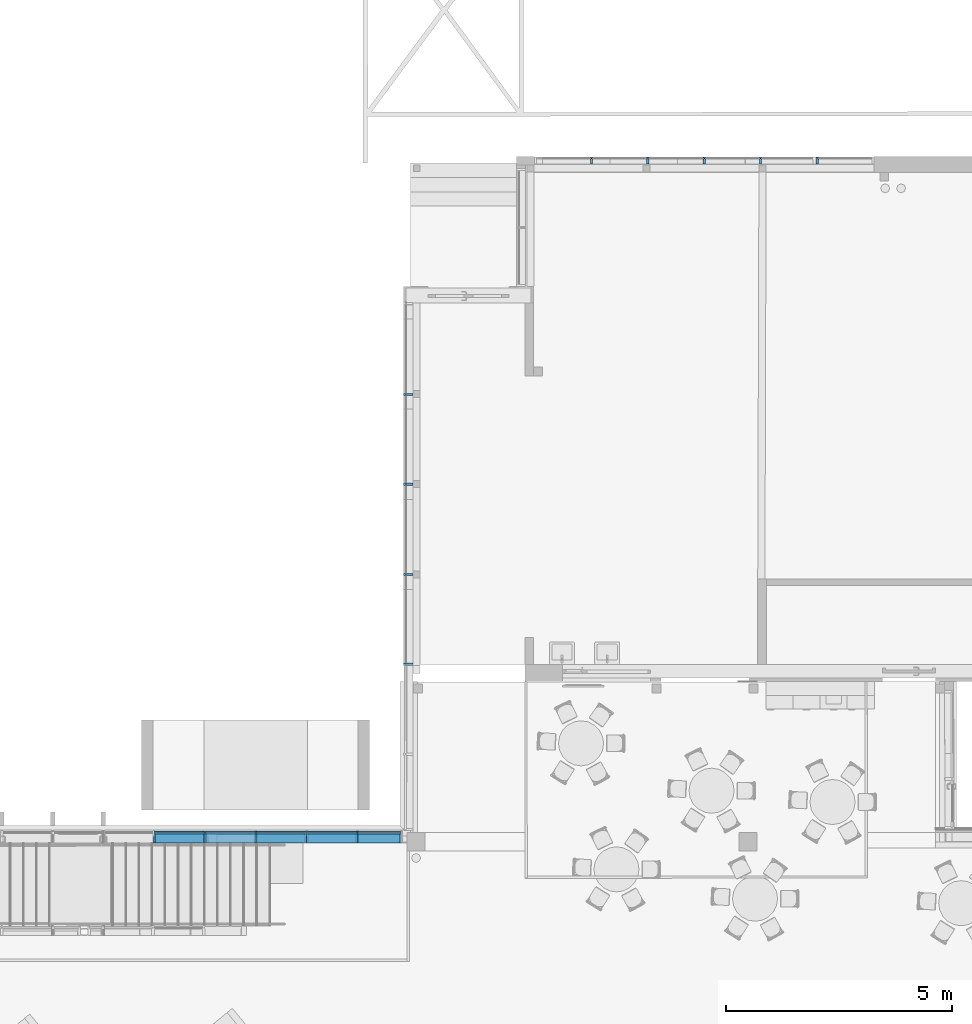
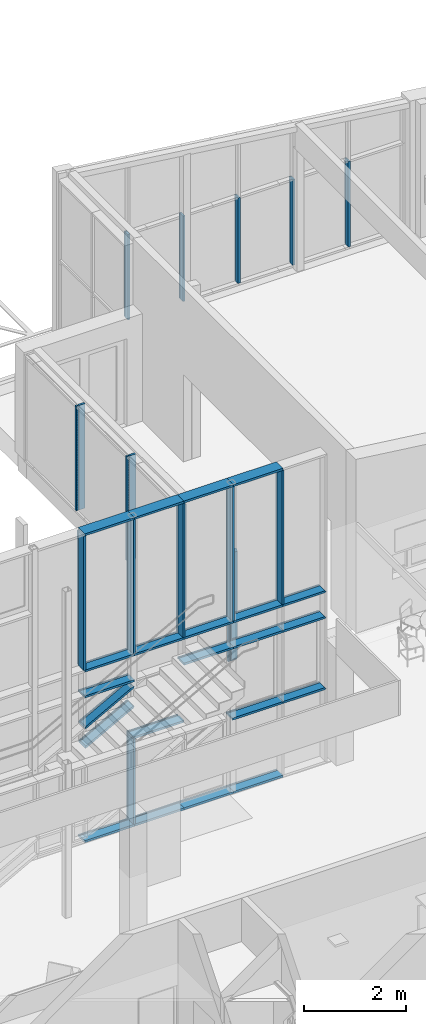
# One storey, part 4 of 301: 38 members, 4 elements without a shape of their own.
"""IFC2X3 building model written with IfcOpenShell, lengths in millimetres."""

from ifc_helpers import new_model, entity, si_unit, converted_unit, derived_unit, money_unit, direction, frame, origin_with_axes, place, context, subcontext, project, spatial, faceted_brep, source, transform, mapped, material, type_object, element, aggregate, save


model = new_model("IFC2X3")

# Units and contexts
model_context = context("Model", 3, precision=0.01, world=origin_with_axes(), true_north=direction((0.0, 1.0)))
body_context = subcontext(model_context, "Body", "Model", "MODEL_VIEW")
ifc_project = project(units=[si_unit("LENGTHUNIT", "METRE", prefix="MILLI"), si_unit("AREAUNIT", "SQUARE_METRE"), si_unit("VOLUMEUNIT", "CUBIC_METRE"), converted_unit("PLANEANGLEUNIT", "DEGREE", entity("IfcPlaneAngleMeasure", 0.0174532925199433), si_unit("PLANEANGLEUNIT", "RADIAN"), dimensions=[0, 0, 0, 0, 0, 0, 0]), money_unit("EUR"), converted_unit("TIMEUNIT", "Year", entity("IfcTimeMeasure", 31557600.0), si_unit("TIMEUNIT", "SECOND"), dimensions=[0, 0, 1, 0, 0, 0, 0]), si_unit("MASSUNIT", "GRAM", prefix="KILO"), si_unit("THERMODYNAMICTEMPERATUREUNIT", "DEGREE_CELSIUS"), si_unit("LUMINOUSINTENSITYUNIT", "LUMEN"), si_unit("ENERGYUNIT", "JOULE", prefix="MEGA"), derived_unit("THERMALCONDUCTANCEUNIT", [(si_unit("POWERUNIT", "WATT"), 1), (si_unit("LENGTHUNIT", "METRE"), -1), (si_unit("THERMODYNAMICTEMPERATUREUNIT", "KELVIN"), -1)]), derived_unit("SPECIFICHEATCAPACITYUNIT", [(si_unit("ENERGYUNIT", "JOULE"), 1), (si_unit("MASSUNIT", "GRAM", prefix="KILO"), -1), (si_unit("THERMODYNAMICTEMPERATUREUNIT", "KELVIN"), -1)]), derived_unit("MASSDENSITYUNIT", [(si_unit("MASSUNIT", "GRAM", prefix="KILO"), 1), (si_unit("VOLUMEUNIT", "CUBIC_METRE"), -1)])], contexts=[model_context])

# Site, building, storey
site_placement = place(None, frame((0.0, 0.0, 8650.0), z_axis=(0.0, 0.0, 1.0), x_axis=(1.0, 0.0, 0.0)))
site = spatial("IfcSite", under=ifc_project, at=site_placement, Name="43301:001:0844", CompositionType="ELEMENT")
building_placement = place(site_placement, origin_with_axes())
building = spatial("IfcBuilding", under=site, at=building_placement, Name="Kuressaare Ametikooli tuulikute mehaanikute õppekorpus", CompositionType="ELEMENT")
storey_placement = place(building_placement, origin_with_axes())
storey = spatial("IfcBuildingStorey", under=building, at=storey_placement, Name="1.korrus", CompositionType="ELEMENT", Elevation=0.0)

# Curtain wall, members
curtain_wall_type = type_object("IfcCurtainWallType", Name="Curtain Wall Type", PredefinedType="NOTDEFINED")
curtain_wall_1_placement = place(storey_placement, frame((116704.6026822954, 28579.57374875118, 35.00000000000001), z_axis=(0.0, 0.0, 1.0), x_axis=(1.0, 0.0, 0.0)))
curtain_wall_1 = element("IfcCurtainWall", 1, at=curtain_wall_1_placement, inside=storey, type_object=curtain_wall_type, Name="KF-1.1")
ifc_material_1 = material(Name="Aluminium")
member_type_1 = type_object("IfcMemberType", Name="Boundary Frame 50 x 260", PredefinedType="NOTDEFINED")
shared_shape_1 = source(origin_with_axes(), body_context, "Body", "Brep", [
    faceted_brep([(5.000000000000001, -20.0, 1125.0), (5.000000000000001, 20.0, 1125.0), (25.0, 20.0, 1125.0), (25.0, 40.00000000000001, 1125.0), (-25.0, 40.00000000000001, 1125.0), (-25.0, 19.99999999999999, 1125.0), (-5.000000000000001, 20.0, 1125.0), (-5.000000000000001, -20.0, 1125.0), (-25.0, -19.99999999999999, 1125.0), (-25.0, -220.0, 1125.0), (25.0, -220.0, 1125.0), (25.0, -20.0, 1125.0), (5.000000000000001, -20.0, -25.00000000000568), (5.000000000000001, 20.0, -25.00000000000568), (25.0, 20.0, -25.00000000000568), (25.0, 40.00000000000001, -25.00000000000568), (-25.0, 40.00000000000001, -25.00000000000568), (-25.0, 19.99999999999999, -25.00000000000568), (-5.000000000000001, 20.0, -25.00000000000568), (-5.000000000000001, -20.0, -25.00000000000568), (-25.0, -19.99999999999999, -25.00000000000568), (-25.0, -220.0, -25.00000000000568), (25.0, -220.0, -25.00000000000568), (25.0, -20.0, -25.00000000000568)], [[[0, 1, 2, 3, 4, 5, 6, 7, 8, 9, 10, 11]], [[0, 12, 13, 1]], [[1, 13, 14, 2]], [[14, 15, 3, 2]], [[3, 15, 16, 4]], [[17, 5, 4, 16]], [[5, 17, 18, 6]], [[7, 6, 18, 19]], [[8, 7, 19, 20]], [[8, 20, 21, 9]], [[9, 21, 22, 10]], [[11, 10, 22, 23]], [[11, 23, 12, 0]], [[13, 12, 23, 22, 21, 20, 19, 18, 17, 16, 15, 14]]]),
])
member_1_placement = place(curtain_wall_1_placement, frame((-2812.5, 0.0, 2099.999959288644), z_axis=(1.0, 0.0, 0.0), x_axis=(0.0, 0.0, 1.0)))
member_1 = element("IfcMember", 2, at=member_1_placement, type_object=member_type_1, material=ifc_material_1, context=body_context, shape_type="MappedRepresentation", body=[
    mapped(shared_shape_1, transform((0.0, 0.0, 0.0), x_axis=(-1.0, 0.0, 0.0), y_axis=(0.0, -1.0, 0.0), z_axis=(0.0, 0.0, 1.0))),
])
member_2_placement = place(curtain_wall_1_placement, frame((-562.5, 0.0, 1764.999998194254), z_axis=(1.0, 0.0, 7.781555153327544e-09), x_axis=(-7.781555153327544e-09, 0.0, 1.0)))
member_2 = element("IfcMember", 3, at=member_2_placement, type_object=member_type_1, material=ifc_material_1, context=body_context, shape_type="MappedRepresentation", body=[
    mapped(shared_shape_1, transform((0.0, 0.0, 0.0), x_axis=(-1.0, 0.0, -7.781555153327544e-09), y_axis=(0.0, -1.0, 0.0), z_axis=(-7.781555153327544e-09, 0.0, 1.0))),
])
member_type_2 = type_object("IfcMemberType", Name="Mullion Frame 50 x 260", PredefinedType="NOTDEFINED")
shared_shape_2 = source(origin_with_axes(), body_context, "Body", "Brep", [
    faceted_brep([(5.000000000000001, -20.0, 2074.999959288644), (5.000000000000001, 20.0, 2074.999959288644), (25.0, 19.99999999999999, 2074.999959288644), (25.0, 40.00000000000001, 2074.999959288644), (-25.0, 40.00000000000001, 2074.999959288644), (-25.0, 20.0, 2074.999959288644), (-5.000000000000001, 20.0, 2074.999959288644), (-5.000000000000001, -20.0, 2074.999959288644), (-25.0, -20.0, 2074.999959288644), (-25.0, -220.0, 2074.999959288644), (25.0, -220.0, 2074.999959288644), (25.0, -19.99999999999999, 2074.999959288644), (5.000000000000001, -20.0, 25.00000000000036), (5.000000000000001, 20.0, 25.00000000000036), (25.0, 20.0, 24.99999999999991), (25.0, 40.00000000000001, 24.99999999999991), (-25.0, 40.00000000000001, 24.99999999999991), (-25.0, 19.99999999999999, 24.99999999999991), (-5.000000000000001, 20.0, 25.00000000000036), (-5.000000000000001, -20.0, 25.00000000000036), (-25.0, -19.99999999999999, 24.99999999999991), (-25.0, -220.0, 25.00000000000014), (25.0, -220.0, 25.00000000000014), (25.0, -20.0, 24.99999999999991)], [[[0, 1, 2, 3, 4, 5, 6, 7, 8, 9, 10, 11]], [[0, 12, 13, 1]], [[1, 13, 14, 2]], [[14, 15, 3, 2]], [[4, 3, 15, 16]], [[17, 5, 4, 16]], [[5, 17, 18, 6]], [[7, 6, 18, 19]], [[8, 7, 19, 20]], [[8, 20, 21, 9]], [[10, 9, 21, 22]], [[11, 10, 22, 23]], [[11, 23, 12, 0]], [[13, 12, 23, 22, 21, 20, 19, 18, 17, 16, 15, 14]]]),
])
member_3_placement = place(curtain_wall_1_placement, frame((-2812.5, 0.0, 0.0), z_axis=(0.0, 0.0, 1.0), x_axis=(-1.0, 0.0, 0.0)))
member_3 = element("IfcMember", 4, at=member_3_placement, type_object=member_type_2, material=ifc_material_1, context=body_context, shape_type="MappedRepresentation", body=[
    mapped(shared_shape_2, transform((0.0, 0.0, 0.0), x_axis=(-1.0, 0.0, 0.0), y_axis=(0.0, -1.0, 0.0), z_axis=(0.0, 0.0, 1.0))),
])
shared_shape_3 = source(origin_with_axes(), body_context, "Body", "Brep", [
    faceted_brep([(5.000000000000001, -20.0, 1125.0), (5.000000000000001, 20.0, 1125.0), (25.0, 20.0, 1125.0), (25.0, 40.00000000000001, 1125.0), (-25.0, 40.00000000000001, 1125.0), (-25.0, 19.99999999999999, 1125.0), (-5.000000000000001, 20.0, 1125.0), (-5.000000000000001, -20.0, 1125.0), (-25.0, -19.99999999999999, 1125.0), (-25.0, -220.0, 1125.0), (25.0, -220.0, 1125.0), (25.0, -20.0, 1125.0), (5.000000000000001, -20.0, 0.0), (5.000000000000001, 20.0, 0.0), (25.0, 20.0, 0.0), (25.0, 40.00000000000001, 0.0), (-25.0, 40.00000000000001, 0.0), (-25.0, 19.99999999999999, 0.0), (-5.000000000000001, 20.0, 0.0), (-5.000000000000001, -20.0, 0.0), (-25.0, -19.99999999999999, 0.0), (-25.0, -220.0, 0.0), (25.0, -220.0, 0.0), (25.0, -20.0, 0.0)], [[[0, 1, 2, 3, 4, 5, 6, 7, 8, 9, 10, 11]], [[0, 12, 13, 1]], [[1, 13, 14, 2]], [[14, 15, 3, 2]], [[3, 15, 16, 4]], [[17, 5, 4, 16]], [[5, 17, 18, 6]], [[7, 6, 18, 19]], [[8, 7, 19, 20]], [[8, 20, 21, 9]], [[9, 21, 22, 10]], [[11, 10, 22, 23]], [[11, 23, 12, 0]], [[13, 12, 23, 22, 21, 20, 19, 18, 17, 16, 15, 14]]]),
])
member_4_placement = place(curtain_wall_1_placement, frame((-562.5, 0.0, 3470.000008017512), z_axis=(1.0, 0.0, 0.0), x_axis=(0.0, 0.0, 1.0)))
member_4 = element("IfcMember", 5, at=member_4_placement, type_object=member_type_1, material=ifc_material_1, context=body_context, shape_type="MappedRepresentation", body=[
    mapped(shared_shape_3, transform((0.0, 0.0, 0.0), x_axis=(-1.0, 0.0, 0.0), y_axis=(0.0, -1.0, 0.0), z_axis=(0.0, 0.0, 1.0))),
])
member_5_placement = place(curtain_wall_1_placement, frame((-1687.5, 0.0, 3470.000008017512), z_axis=(1.0, 0.0, 0.0), x_axis=(0.0, 0.0, 1.0)))
member_5 = element("IfcMember", 6, at=member_5_placement, type_object=member_type_1, material=ifc_material_1, context=body_context, shape_type="MappedRepresentation", body=[
    mapped(shared_shape_3, transform((0.0, 0.0, 0.0), x_axis=(-1.0, 0.0, 0.0), y_axis=(0.0, -1.0, 0.0), z_axis=(0.0, 0.0, 1.0))),
])
member_6_placement = place(curtain_wall_1_placement, frame((-562.5, 0.0, 4090.0), z_axis=(1.0, 0.0, 0.0), x_axis=(0.0, 0.0, 1.0)))
member_6 = element("IfcMember", 7, at=member_6_placement, type_object=member_type_1, material=ifc_material_1, context=body_context, shape_type="MappedRepresentation", body=[
    mapped(shared_shape_3, transform((0.0, 0.0, 0.0), x_axis=(-1.0, 0.0, 0.0), y_axis=(0.0, -1.0, 0.0), z_axis=(0.0, 0.0, 1.0))),
])
member_7_placement = place(curtain_wall_1_placement, frame((-2812.5, 0.0, 4090.0), z_axis=(1.0, 0.0, 0.0), x_axis=(0.0, 0.0, 1.0)))
member_7 = element("IfcMember", 8, at=member_7_placement, type_object=member_type_1, material=ifc_material_1, context=body_context, shape_type="MappedRepresentation", body=[
    mapped(shared_shape_3, transform((0.0, 0.0, 0.0), x_axis=(-1.0, 0.0, 0.0), y_axis=(0.0, -1.0, 0.0), z_axis=(0.0, 0.0, 1.0))),
])
member_8_placement = place(curtain_wall_1_placement, frame((-1687.5, 0.0, 4090.0), z_axis=(1.0, 0.0, 0.0), x_axis=(0.0, 0.0, 1.0)))
member_8 = element("IfcMember", 9, at=member_8_placement, type_object=member_type_1, material=ifc_material_1, context=body_context, shape_type="MappedRepresentation", body=[
    mapped(shared_shape_3, transform((0.0, 0.0, 0.0), x_axis=(-1.0, 0.0, 0.0), y_axis=(0.0, -1.0, 0.0), z_axis=(0.0, 0.0, 1.0))),
])
member_9_placement = place(curtain_wall_1_placement, frame((-3937.5, 0.0, 4090.0), z_axis=(1.0, 0.0, 0.0), x_axis=(0.0, 0.0, 1.0)))
member_9 = element("IfcMember", 10, at=member_9_placement, type_object=member_type_1, material=ifc_material_1, context=body_context, shape_type="MappedRepresentation", body=[
    mapped(shared_shape_3, transform((0.0, 0.0, 0.0), x_axis=(-1.0, 0.0, 0.0), y_axis=(0.0, -1.0, 0.0), z_axis=(0.0, 0.0, 1.0))),
])
member_10_placement = place(curtain_wall_1_placement, frame((-3937.5, 0.0, 3470.000008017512), z_axis=(1.0, 0.0, 0.0), x_axis=(0.0, 0.0, 1.0)))
member_10 = element("IfcMember", 11, at=member_10_placement, type_object=member_type_1, material=ifc_material_1, context=body_context, shape_type="MappedRepresentation", body=[
    mapped(shared_shape_3, transform((0.0, 0.0, 0.0), x_axis=(-1.0, 0.0, 0.0), y_axis=(0.0, -1.0, 0.0), z_axis=(0.0, 0.0, 1.0))),
])
shared_shape_4 = source(origin_with_axes(), body_context, "Body", "Brep", [
    faceted_brep([(5.000000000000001, -20.0, 969.4188653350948), (5.000000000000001, 20.0, 969.4188653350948), (25.00000000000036, 19.99999999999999, 949.4188653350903), (25.00000000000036, 40.00000000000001, 949.4188653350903), (0.0, 40.00000000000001, 974.418865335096), (0.0, -220.0, 974.418865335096), (25.00000000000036, -220.0, 949.4188653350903), (25.00000000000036, -19.99999999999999, 949.4188653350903), (5.000000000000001, -20.0, 0.0), (5.000000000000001, 20.0, 0.0), (25.0, 20.0, 0.0), (25.0, 40.00000000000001, 0.0), (-25.0, 40.00000000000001, 0.0), (-25.00000000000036, 40.00000000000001, 949.4188667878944), (-25.00000000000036, 20.0, 949.4188667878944), (-5.000000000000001, 20.0, 969.4188656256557), (-5.000000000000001, -20.0, 969.4188656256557), (-25.00000000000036, -20.0, 949.4188667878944), (-25.00000000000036, -220.0, 949.4188667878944), (-25.0, -220.0, 0.0), (25.0, -220.0, 0.0), (25.0, -20.0, 0.0), (-25.0, -19.99999999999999, 0.0), (-5.000000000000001, -20.0, 0.0), (-5.000000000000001, 20.0, 0.0), (-25.0, 19.99999999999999, 0.0)], [[[0, 1, 2, 3, 4, 5, 6, 7]], [[0, 8, 9, 1]], [[1, 9, 10, 2]], [[10, 11, 3, 2]], [[11, 12, 13, 4, 3]], [[5, 4, 13, 14, 15, 16, 17, 18]], [[18, 19, 20, 6, 5]], [[7, 6, 20, 21]], [[7, 21, 8, 0]], [[9, 8, 21, 20, 19, 22, 23, 24, 25, 12, 11, 10]], [[25, 14, 13, 12]], [[14, 25, 24, 15]], [[16, 15, 24, 23]], [[17, 16, 23, 22]], [[17, 22, 19, 18]]]),
])
member_11_placement = place(curtain_wall_1_placement, frame((562.5, 0.0, 3470.000008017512), z_axis=(0.9999999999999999, 0.0, 1.766273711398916e-08), x_axis=(-1.766273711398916e-08, 0.0, 0.9999999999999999)))
member_11 = element("IfcMember", 12, at=member_11_placement, type_object=member_type_1, material=ifc_material_1, context=body_context, shape_type="MappedRepresentation", body=[
    mapped(shared_shape_4, transform((0.0, 0.0, 0.0), x_axis=(-0.9999999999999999, 0.0, -1.766273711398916e-08), y_axis=(0.0, -1.0, 0.0), z_axis=(-1.766273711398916e-08, 0.0, 0.9999999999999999))),
])
member_12_placement = place(curtain_wall_1_placement, frame((562.5, 0.0, 4090.0), z_axis=(1.0, 0.0, 0.0), x_axis=(0.0, 0.0, 1.0)))
member_12 = element("IfcMember", 13, at=member_12_placement, type_object=member_type_1, material=ifc_material_1, context=body_context, shape_type="MappedRepresentation", body=[
    mapped(shared_shape_4, transform((0.0, 0.0, 0.0), x_axis=(-1.0, 0.0, 0.0), y_axis=(0.0, -1.0, 0.0), z_axis=(0.0, 0.0, 1.0))),
])
member_13_placement = place(curtain_wall_1_placement, frame((562.5, 0.0, 1765.000006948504), z_axis=(1.0, 0.0, 0.0), x_axis=(0.0, 0.0, 1.0)))
member_13 = element("IfcMember", 14, at=member_13_placement, type_object=member_type_1, material=ifc_material_1, context=body_context, shape_type="MappedRepresentation", body=[
    mapped(shared_shape_4, transform((0.0, 0.0, 0.0), x_axis=(-1.0, 0.0, 0.0), y_axis=(0.0, -1.0, 0.0), z_axis=(0.0, 0.0, 1.0))),
])
shared_shape_5 = source(origin_with_axes(), body_context, "Body", "Brep", [
    faceted_brep([(5.000000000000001, -20.0, 1272.070304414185), (5.000000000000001, 20.0, 1272.070304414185), (24.99999999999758, 19.99999999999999, 1238.434096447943), (24.99999999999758, 40.00000000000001, 1238.434096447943), (0.0, 40.00000000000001, 1280.479356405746), (0.0, -220.0, 1280.479356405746), (24.99999999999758, -220.0, 1238.434096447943), (24.99999999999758, -19.99999999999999, 1238.434096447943), (5.000000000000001, -20.0, 2.972986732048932), (5.000000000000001, 20.0, 2.972986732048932), (24.9999999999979, 20.0, 14.86493366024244), (24.9999999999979, 40.00000000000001, 14.86493366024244), (0.0, 40.00000000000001, 0.0), (-24.99999999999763, 40.00000000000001, 42.0452599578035), (-24.99999999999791, 40.00000000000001, 1265.614422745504), (-24.99999999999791, 20.0, 1265.614422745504), (-5.000000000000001, 20.0, 1277.506369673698), (-5.000000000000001, -20.0, 1277.506369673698), (-24.99999999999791, -20.0, 1265.614422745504), (-24.99999999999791, -220.0, 1265.614422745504), (0.0, -220.0, 0.0), (24.9999999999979, -220.0, 14.86493366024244), (-24.99999999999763, -220.0, 42.0452599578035), (24.9999999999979, -20.0, 14.86493366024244), (-24.99999999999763, -19.99999999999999, 42.0452599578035), (-5.000000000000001, -20.0, 8.409051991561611), (-5.000000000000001, 20.0, 8.409051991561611), (-24.99999999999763, 19.99999999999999, 42.0452599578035)], [[[0, 1, 2, 3, 4, 5, 6, 7]], [[0, 8, 9, 1]], [[1, 9, 10, 2]], [[10, 11, 3, 2]], [[12, 13, 14, 4, 3, 11]], [[5, 4, 14, 15, 16, 17, 18, 19]], [[20, 21, 6, 5, 19, 22]], [[7, 6, 21, 23]], [[7, 23, 8, 0]], [[9, 8, 23, 21, 20, 12, 11, 10]], [[13, 12, 20, 22, 24, 25, 26, 27]], [[27, 15, 14, 13]], [[15, 27, 26, 16]], [[17, 16, 26, 25]], [[18, 17, 25, 24]], [[18, 24, 22, 19]]]),
])
member_14_placement = place(curtain_wall_1_placement, frame((-2812.5, 0.0, 3326.937589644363), z_axis=(-0.8785772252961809, 0.0, -0.4776003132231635), x_axis=(0.4776003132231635, 0.0, -0.8785772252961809)))
member_14 = element("IfcMember", 15, at=member_14_placement, type_object=member_type_2, material=ifc_material_1, context=body_context, shape_type="MappedRepresentation", body=[
    mapped(shared_shape_5, transform((0.0, 0.0, 0.0), x_axis=(-1.0, 0.0, 0.0), y_axis=(0.0, -1.0, 0.0), z_axis=(0.0, 0.0, 1.0))),
])
member_15_placement = place(curtain_wall_1_placement, frame((-2812.5, 0.0, 2858.442666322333), z_axis=(-0.8785772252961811, 0.0, -0.4776003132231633), x_axis=(0.4776003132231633, 0.0, -0.8785772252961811)))
member_15 = element("IfcMember", 16, at=member_15_placement, type_object=member_type_2, material=ifc_material_1, context=body_context, shape_type="MappedRepresentation", body=[
    mapped(shared_shape_5, transform((0.0, 0.0, 0.0), x_axis=(-1.0, 0.0, 0.0), y_axis=(0.0, -1.0, 0.0), z_axis=(0.0, 0.0, 1.0))),
])
shared_shape_6 = source(origin_with_axes(), body_context, "Body", "Brep", [
    faceted_brep([(-5.000000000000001, -20.0, 1125.0), (-25.0, -19.99999999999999, 1125.0), (-25.0, -220.0, 1125.0), (25.0, -220.0, 1125.0), (25.0, 40.00000000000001, 1125.0), (-25.0, 40.00000000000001, 1125.0), (-25.0, 19.99999999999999, 1125.0), (-5.000000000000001, 20.0, 1125.0), (-5.000000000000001, -20.0, 0.0), (-25.0, -19.99999999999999, 0.0), (-25.0, -220.0, 0.0), (25.0, -220.0, 0.0), (25.0, 40.00000000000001, 0.0), (-25.0, 40.00000000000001, 0.0), (-25.0, 19.99999999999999, 0.0), (-5.000000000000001, 20.0, 0.0)], [[[0, 1, 2, 3, 4, 5, 6, 7]], [[0, 8, 9, 1]], [[9, 10, 2, 1]], [[10, 11, 3, 2]], [[11, 12, 4, 3]], [[12, 13, 5, 4]], [[6, 5, 13, 14]], [[14, 15, 7, 6]], [[7, 15, 8, 0]], [[8, 15, 14, 13, 12, 11, 10, 9]]]),
])
member_16_placement = place(curtain_wall_1_placement, frame((-3937.5, 0.0, 0.0), z_axis=(1.0, 0.0, 0.0), x_axis=(0.0, 0.0, 1.0)))
member_16 = element("IfcMember", 17, at=member_16_placement, type_object=member_type_1, material=ifc_material_1, context=body_context, shape_type="MappedRepresentation", body=[
    mapped(shared_shape_6, transform((0.0, 0.0, 0.0), x_axis=(-1.0, 0.0, 0.0), y_axis=(0.0, -1.0, 0.0), z_axis=(0.0, 0.0, 1.0))),
])
member_17_placement = place(curtain_wall_1_placement, frame((-2812.5, 0.0, 0.0), z_axis=(1.0, 0.0, 0.0), x_axis=(0.0, 0.0, 1.0)))
member_17 = element("IfcMember", 18, at=member_17_placement, type_object=member_type_1, material=ifc_material_1, context=body_context, shape_type="MappedRepresentation", body=[
    mapped(shared_shape_6, transform((0.0, 0.0, 0.0), x_axis=(-1.0, 0.0, 0.0), y_axis=(0.0, -1.0, 0.0), z_axis=(0.0, 0.0, 1.0))),
])
member_18_placement = place(curtain_wall_1_placement, frame((-1687.5, 0.0, 0.0), z_axis=(1.0, 0.0, 0.0), x_axis=(0.0, 0.0, 1.0)))
member_18 = element("IfcMember", 19, at=member_18_placement, type_object=member_type_1, material=ifc_material_1, context=body_context, shape_type="MappedRepresentation", body=[
    mapped(shared_shape_6, transform((0.0, 0.0, 0.0), x_axis=(-1.0, 0.0, 0.0), y_axis=(0.0, -1.0, 0.0), z_axis=(0.0, 0.0, 1.0))),
])
member_19_placement = place(curtain_wall_1_placement, frame((-562.5, 0.0, 0.0), z_axis=(1.0, 0.0, 0.0), x_axis=(0.0, 0.0, 1.0)))
member_19 = element("IfcMember", 20, at=member_19_placement, type_object=member_type_1, material=ifc_material_1, context=body_context, shape_type="MappedRepresentation", body=[
    mapped(shared_shape_6, transform((0.0, 0.0, 0.0), x_axis=(-1.0, 0.0, 0.0), y_axis=(0.0, -1.0, 0.0), z_axis=(0.0, 0.0, 1.0))),
])
member_20_placement = place(curtain_wall_1_placement, frame((-2812.5, 0.0, 7359.99994565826), z_axis=(-1.0, 0.0, 0.0), x_axis=(0.0, 0.0, -1.0)))
member_20 = element("IfcMember", 21, at=member_20_placement, type_object=member_type_1, material=ifc_material_1, context=body_context, shape_type="MappedRepresentation", body=[
    mapped(shared_shape_6, transform((0.0, 0.0, 0.0), x_axis=(-1.0, 0.0, 0.0), y_axis=(0.0, -1.0, 0.0), z_axis=(0.0, 0.0, 1.0))),
])
member_21_placement = place(curtain_wall_1_placement, frame((-1687.5, 0.0, 7359.99994565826), z_axis=(-1.0, 0.0, 0.0), x_axis=(0.0, 0.0, -1.0)))
member_21 = element("IfcMember", 22, at=member_21_placement, type_object=member_type_1, material=ifc_material_1, context=body_context, shape_type="MappedRepresentation", body=[
    mapped(shared_shape_6, transform((0.0, 0.0, 0.0), x_axis=(-1.0, 0.0, 0.0), y_axis=(0.0, -1.0, 0.0), z_axis=(0.0, 0.0, 1.0))),
])
member_22_placement = place(curtain_wall_1_placement, frame((-562.5, 0.0, 7359.99994565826), z_axis=(-1.0, 0.0, 0.0), x_axis=(0.0, 0.0, -1.0)))
member_22 = element("IfcMember", 23, at=member_22_placement, type_object=member_type_1, material=ifc_material_1, context=body_context, shape_type="MappedRepresentation", body=[
    mapped(shared_shape_6, transform((0.0, 0.0, 0.0), x_axis=(-1.0, 0.0, 0.0), y_axis=(0.0, -1.0, 0.0), z_axis=(0.0, 0.0, 1.0))),
])
member_23_placement = place(curtain_wall_1_placement, frame((562.5, 0.0, 7359.99994565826), z_axis=(-1.0, 0.0, 0.0), x_axis=(0.0, 0.0, -1.0)))
member_23 = element("IfcMember", 24, at=member_23_placement, type_object=member_type_1, material=ifc_material_1, context=body_context, shape_type="MappedRepresentation", body=[
    mapped(shared_shape_6, transform((0.0, 0.0, 0.0), x_axis=(-1.0, 0.0, 0.0), y_axis=(0.0, -1.0, 0.0), z_axis=(0.0, 0.0, 1.0))),
])
shared_shape_7 = source(origin_with_axes(), body_context, "Body", "Brep", [
    faceted_brep([(5.000000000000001, -20.0, 3244.99994565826), (5.000000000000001, 20.0, 3244.99994565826), (25.0, 19.99999999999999, 3244.99994565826), (25.0, 40.00000000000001, 3244.99994565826), (-25.0, 40.00000000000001, 3244.99994565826), (-25.0, 20.0, 3244.99994565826), (-5.000000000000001, 20.0, 3244.99994565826), (-5.000000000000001, -20.0, 3244.99994565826), (-25.0, -20.0, 3244.99994565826), (-25.0, -220.0, 3244.99994565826), (25.0, -220.0, 3244.99994565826), (25.0, -19.99999999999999, 3244.99994565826), (5.000000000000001, -20.0, 25.00000000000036), (5.000000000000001, 20.0, 25.00000000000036), (25.0, 20.0, 25.00000000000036), (25.0, 40.00000000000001, 25.00000000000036), (-25.0, 40.00000000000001, 25.00000000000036), (-25.0, 19.99999999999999, 25.00000000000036), (-5.000000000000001, 20.0, 25.00000000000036), (-5.000000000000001, -20.0, 25.00000000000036), (-25.0, -19.99999999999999, 25.00000000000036), (-25.0, -220.0, 25.00000000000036), (25.0, -220.0, 25.00000000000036), (25.0, -20.0, 25.00000000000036)], [[[0, 1, 2, 3, 4, 5, 6, 7, 8, 9, 10, 11]], [[0, 12, 13, 1]], [[1, 13, 14, 2]], [[14, 15, 3, 2]], [[4, 3, 15, 16]], [[17, 5, 4, 16]], [[5, 17, 18, 6]], [[7, 6, 18, 19]], [[8, 7, 19, 20]], [[8, 20, 21, 9]], [[10, 9, 21, 22]], [[11, 10, 22, 23]], [[11, 23, 12, 0]], [[13, 12, 23, 22, 21, 20, 19, 18, 17, 16, 15, 14]]]),
])
member_24_placement = place(curtain_wall_1_placement, frame((-562.5, 0.0, 4090.0), z_axis=(0.0, 0.0, 1.0), x_axis=(-1.0, 0.0, 0.0)))
member_24 = element("IfcMember", 25, at=member_24_placement, type_object=member_type_2, material=ifc_material_1, context=body_context, shape_type="MappedRepresentation", body=[
    mapped(shared_shape_7, transform((0.0, 0.0, 0.0), x_axis=(-1.0, 0.0, 0.0), y_axis=(0.0, -1.0, 0.0), z_axis=(0.0, 0.0, 1.0))),
])
member_25_placement = place(curtain_wall_1_placement, frame((-3937.5, 0.0, 4090.0), z_axis=(0.0, 0.0, 1.0), x_axis=(-1.0, 0.0, 0.0)))
member_25 = element("IfcMember", 26, at=member_25_placement, type_object=member_type_2, material=ifc_material_1, context=body_context, shape_type="MappedRepresentation", body=[
    mapped(shared_shape_7, transform((0.0, 0.0, 0.0), x_axis=(-1.0, 0.0, 0.0), y_axis=(0.0, -1.0, 0.0), z_axis=(0.0, 0.0, 1.0))),
])
member_26_placement = place(curtain_wall_1_placement, frame((-2812.5, 0.0, 4090.0), z_axis=(0.0, 0.0, 1.0), x_axis=(-1.0, 0.0, 0.0)))
member_26 = element("IfcMember", 27, at=member_26_placement, type_object=member_type_2, material=ifc_material_1, context=body_context, shape_type="MappedRepresentation", body=[
    mapped(shared_shape_7, transform((0.0, 0.0, 0.0), x_axis=(-1.0, 0.0, 0.0), y_axis=(0.0, -1.0, 0.0), z_axis=(0.0, 0.0, 1.0))),
])
member_27_placement = place(curtain_wall_1_placement, frame((-1687.5, 0.0, 4090.0), z_axis=(0.0, 0.0, 1.0), x_axis=(-1.0, 0.0, 0.0)))
member_27 = element("IfcMember", 28, at=member_27_placement, type_object=member_type_2, material=ifc_material_1, context=body_context, shape_type="MappedRepresentation", body=[
    mapped(shared_shape_7, transform((0.0, 0.0, 0.0), x_axis=(-1.0, 0.0, 0.0), y_axis=(0.0, -1.0, 0.0), z_axis=(0.0, 0.0, 1.0))),
])
member_28_placement = place(curtain_wall_1_placement, frame((562.5, 0.0, 4090.0), z_axis=(0.0, 0.0, 1.0), x_axis=(-1.0, 0.0, 0.0)))
member_28 = element("IfcMember", 29, at=member_28_placement, type_object=member_type_2, material=ifc_material_1, context=body_context, shape_type="MappedRepresentation", body=[
    mapped(shared_shape_7, transform((0.0, 0.0, 0.0), x_axis=(-1.0, 0.0, 0.0), y_axis=(0.0, -1.0, 0.0), z_axis=(0.0, 0.0, 1.0))),
])
aggregate(curtain_wall_1, [member_1, member_3, member_4, member_11, member_5, member_14, member_15, member_6, member_12, member_7, member_16, member_17, member_8, member_18, member_19, member_9, member_24, member_10, member_25, member_20, member_26, member_21, member_27, member_22, member_23, member_28, member_13, member_2])

# Curtain wall, member
curtain_wall_2_placement = place(storey_placement, frame((118335.7921529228, 29489.81776331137, 34.99994345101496), z_axis=(0.0, 0.0, 1.0), x_axis=(1.0, 0.0, 0.0)))
curtain_wall_2 = element("IfcCurtainWall", 30, at=curtain_wall_2_placement, inside=storey, type_object=curtain_wall_type, Name="KF-1.2")
member_type_3 = type_object("IfcMemberType", Name="Boundary Frame 50 x 200", PredefinedType="NOTDEFINED")
shared_shape_8 = source(origin_with_axes(), body_context, "Body", "Brep", [
    faceted_brep([(-5.000000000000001, -20.0, 2605.000036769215), (-25.0, -20.0, 2585.000036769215), (-25.0, -160.0, 2585.000036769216), (25.0, -160.0, 2635.000036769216), (25.0, 40.00000000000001, 2635.000036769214), (-25.0, 40.00000000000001, 2585.000036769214), (-25.0, 20.0, 2585.000036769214), (-5.000000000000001, 20.0, 2605.000036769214), (-5.000000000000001, -20.0, 4.999999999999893), (-25.0, -19.99999999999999, 24.99999999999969), (-25.0, -160.0, 24.99999999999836), (25.0, -160.0, -25.00000000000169), (25.0, 40.00000000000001, -24.99999999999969), (-25.0, 40.00000000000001, 25.00000000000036), (-25.0, 19.99999999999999, 25.00000000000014), (-5.000000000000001, 20.0, 5.000000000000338)], [[[0, 1, 2, 3, 4, 5, 6, 7]], [[0, 8, 9, 1]], [[9, 10, 2, 1]], [[2, 10, 11, 3]], [[3, 11, 12, 4]], [[4, 12, 13, 5]], [[6, 5, 13, 14]], [[14, 15, 7, 6]], [[7, 15, 8, 0]], [[8, 15, 14, 13, 12, 11, 10, 9]]]),
])
member_29_placement = place(curtain_wall_2_placement, frame((3.771415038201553, 2824.557290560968, 0.0), z_axis=(0.0, 0.0, 1.0), x_axis=(0.001335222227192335, 0.9999991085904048, 0.0)))
member_29 = element("IfcMember", 31, at=member_29_placement, type_object=member_type_3, material=ifc_material_1, context=body_context, shape_type="MappedRepresentation", body=[
    mapped(shared_shape_8, transform((0.0, 0.0, 0.0))),
])
aggregate(curtain_wall_2, [member_29])

# Curtain wall, members
curtain_wall_3_placement = place(storey_placement, frame((118344.5490393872, 39517.28066569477, -20.0), z_axis=(0.0, 0.0, 1.0), x_axis=(1.0, 0.0, 0.0)))
curtain_wall_3 = element("IfcCurtainWall", 32, at=curtain_wall_3_placement, inside=storey, type_object=curtain_wall_type, Name="KF-XX")
ifc_material_2 = material(Name="Metall - Alumiinium")
member_type_4 = type_object("IfcMemberType", Name="Mullion Frame 50 x 200", PredefinedType="NOTDEFINED")
shared_shape_9 = source(origin_with_axes(), body_context, "Body", "Brep", [
    faceted_brep([(-10.0, -10.0, 2555.000039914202), (-25.0, -10.0, 2555.000039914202), (-25.0, -150.0, 2555.000039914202), (25.0, -150.0, 2555.000039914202), (25.0, -10.00000000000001, 2555.000039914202), (10.0, -10.0, 2555.000039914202), (10.0, 10.0, 2555.000039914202), (25.0, 10.0, 2555.000039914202), (25.0, 50.00000000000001, 2555.000039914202), (-25.0, 50.00000000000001, 2555.000039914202), (-25.0, 10.0, 2555.000039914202), (-10.0, 10.0, 2555.000039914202), (-10.0, -10.0, 50.00000000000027), (-25.0, -10.0, 50.00000000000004), (-25.0, -150.0, 50.00000000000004), (25.0, -150.0, 50.00000000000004), (25.0, -10.00000000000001, 50.00000000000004), (10.0, -10.0, 50.00000000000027), (10.0, 10.0, 50.00000000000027), (25.0, 10.0, 50.00000000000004), (25.0, 50.00000000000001, 50.00000000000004), (-25.0, 50.00000000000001, 50.00000000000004), (-25.0, 10.0, 50.00000000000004), (-10.0, 10.0, 50.00000000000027)], [[[0, 1, 2, 3, 4, 5, 6, 7, 8, 9, 10, 11]], [[1, 0, 12, 13]], [[1, 13, 14, 2]], [[2, 14, 15, 3]], [[4, 3, 15, 16]], [[4, 16, 17, 5]], [[5, 17, 18, 6]], [[7, 6, 18, 19]], [[19, 20, 8, 7]], [[8, 20, 21, 9]], [[22, 10, 9, 21]], [[11, 10, 22, 23]], [[0, 11, 23, 12]], [[23, 22, 21, 20, 19, 18, 17, 16, 15, 14, 13, 12]]]),
])
member_30_placement = place(curtain_wall_3_placement, frame((0.0, -7202.666765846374, 0.0), z_axis=(0.0, 0.0, 1.0), x_axis=(0.0, 1.0, 0.0)))
member_30 = element("IfcMember", 33, at=member_30_placement, type_object=member_type_4, material=ifc_material_2, context=body_context, shape_type="MappedRepresentation", body=[
    mapped(shared_shape_9, transform((0.0, 0.0, 0.0))),
])
member_31_placement = place(curtain_wall_3_placement, frame((0.0, -5212.677131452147, 0.0), z_axis=(0.0, 0.0, 1.0), x_axis=(0.0, 1.0, 0.0)))
member_31 = element("IfcMember", 34, at=member_31_placement, type_object=member_type_4, material=ifc_material_2, context=body_context, shape_type="MappedRepresentation", body=[
    mapped(shared_shape_9, transform((0.0, 0.0, 0.0))),
])
member_32_placement = place(curtain_wall_3_placement, frame((0.0, -3216.533766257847, 0.0), z_axis=(0.0, 0.0, 1.0), x_axis=(0.0, 1.0, 0.0)))
member_32 = element("IfcMember", 35, at=member_32_placement, type_object=member_type_4, material=ifc_material_2, context=body_context, shape_type="MappedRepresentation", body=[
    mapped(shared_shape_9, transform((0.0, 0.0, 0.0))),
])
member_33_placement = place(curtain_wall_3_placement, frame((0.0, -1226.533769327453, 0.0), z_axis=(0.0, 0.0, 1.0), x_axis=(0.0, 1.0, 0.0)))
member_33 = element("IfcMember", 36, at=member_33_placement, type_object=member_type_4, material=ifc_material_2, context=body_context, shape_type="MappedRepresentation", body=[
    mapped(shared_shape_9, transform((0.0, 0.0, 0.0))),
])
aggregate(curtain_wall_3, [member_30, member_31, member_32, member_33])

curtain_wall_4_placement = place(storey_placement, frame((123006.726034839, 43517.8284534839, -3.991420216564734e-05), z_axis=(0.0, 0.0, 1.0), x_axis=(1.0, 0.0, 0.0)))
curtain_wall_4 = element("IfcCurtainWall", 37, at=curtain_wall_4_placement, inside=storey, type_object=curtain_wall_type, Name="KF-XX")
member_type_5 = type_object("IfcMemberType", Name="Mullion Frame 50 x 150", PredefinedType="NOTDEFINED")
shared_shape_10 = source(origin_with_axes(), body_context, "Body", "Brep", [
    faceted_brep([(-10.0, -10.0, 2100.000040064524), (-25.0, -10.0, 2100.000040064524), (-25.0, -120.0, 2100.000040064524), (25.0, -120.0, 2100.000040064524), (25.0, -10.00000000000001, 2100.000040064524), (10.0, -10.0, 2100.000040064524), (10.0, 10.0, 2100.000040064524), (25.0, 10.0, 2100.000040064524), (25.0, 30.0, 2100.000040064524), (-25.0, 30.0, 2100.000040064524), (-25.0, 10.0, 2100.000040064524), (-10.0, 10.0, 2100.000040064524), (-10.0, -10.0, 50.00000000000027), (-25.0, -10.0, 50.00000000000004), (-25.0, -120.0, 50.00000000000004), (25.0, -120.0, 50.00000000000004), (25.0, -10.00000000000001, 50.00000000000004), (10.0, -10.0, 50.00000000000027), (10.0, 10.0, 50.00000000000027), (25.0, 10.0, 50.00000000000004), (25.0, 30.0, 50.00000000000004), (-25.0, 30.0, 50.00000000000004), (-25.0, 10.0, 50.00000000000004), (-10.0, 10.0, 50.00000000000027)], [[[0, 1, 2, 3, 4, 5, 6, 7, 8, 9, 10, 11]], [[1, 0, 12, 13]], [[1, 13, 14, 2]], [[2, 14, 15, 3]], [[4, 3, 15, 16]], [[4, 16, 17, 5]], [[5, 17, 18, 6]], [[7, 6, 18, 19]], [[19, 20, 8, 7]], [[8, 20, 21, 9]], [[22, 10, 9, 21]], [[11, 10, 22, 23]], [[0, 11, 23, 12]], [[23, 22, 21, 20, 19, 18, 17, 16, 15, 14, 13, 12]]]),
])
member_34_placement = place(curtain_wall_4_placement, frame((695.0473185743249, 0.0, 0.0), z_axis=(0.0, 0.0, 1.0), x_axis=(1.0, 0.0, 0.0)))
member_34 = element("IfcMember", 38, at=member_34_placement, type_object=member_type_5, material=ifc_material_2, context=body_context, shape_type="MappedRepresentation", body=[
    mapped(shared_shape_10, transform((0.0, 0.0, 0.0))),
])
member_35_placement = place(curtain_wall_4_placement, frame((-552.1759755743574, 0.0, 0.0), z_axis=(0.0, 0.0, 1.0), x_axis=(1.0, 0.0, 0.0)))
member_35 = element("IfcMember", 39, at=member_35_placement, type_object=member_type_5, material=ifc_material_2, context=body_context, shape_type="MappedRepresentation", body=[
    mapped(shared_shape_10, transform((0.0, 0.0, 0.0))),
])
member_36_placement = place(curtain_wall_4_placement, frame((1945.71281708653, 0.0, 0.0), z_axis=(0.0, 0.0, 1.0), x_axis=(1.0, 0.0, 0.0)))
member_36 = element("IfcMember", 40, at=member_36_placement, type_object=member_type_5, material=ifc_material_2, context=body_context, shape_type="MappedRepresentation", body=[
    mapped(shared_shape_10, transform((0.0, 0.0, 0.0))),
])
member_37_placement = place(curtain_wall_4_placement, frame((3189.090760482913, 0.0, 0.0), z_axis=(0.0, 0.0, 1.0), x_axis=(1.0, 0.0, 0.0)))
member_37 = element("IfcMember", 41, at=member_37_placement, type_object=member_type_5, material=ifc_material_2, context=body_context, shape_type="MappedRepresentation", body=[
    mapped(shared_shape_10, transform((0.0, 0.0, 0.0))),
])
member_38_placement = place(curtain_wall_4_placement, frame((4444.567365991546, 0.0, 0.0), z_axis=(0.0, 0.0, 1.0), x_axis=(1.0, 0.0, 0.0)))
member_38 = element("IfcMember", 42, at=member_38_placement, type_object=member_type_5, material=ifc_material_2, context=body_context, shape_type="MappedRepresentation", body=[
    mapped(shared_shape_10, transform((0.0, 0.0, 0.0))),
])
aggregate(curtain_wall_4, [member_34, member_35, member_36, member_37, member_38])

save(model, "model.ifc")
